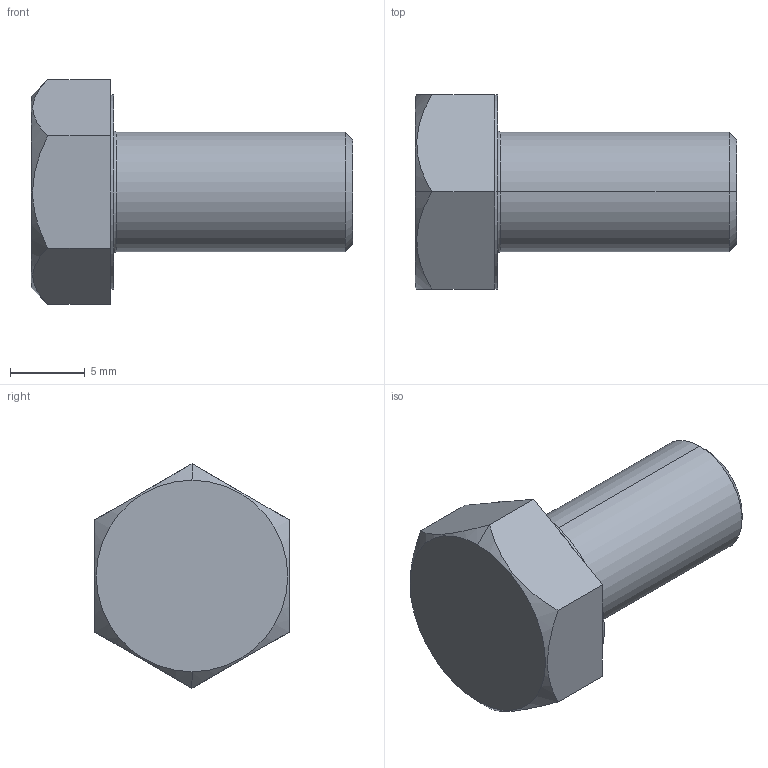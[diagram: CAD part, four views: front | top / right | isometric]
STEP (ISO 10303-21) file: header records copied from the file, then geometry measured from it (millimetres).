
FILE_DESCRIPTION (( 'STEP AP203' ), '1' );
FILE_NAME ('LGN-TD-M8x16.STEP', '2026-08-14T04:13:38', ( '' ), ( '' ), 'SwSTEP 2.0', 'SolidWorks 2020', '' );
FILE_SCHEMA (( 'CONFIG_CONTROL_DESIGN' ));
Length unit declared in the file: millimetre
Products named in the file (1): LGN-TD-M8x16
Bounding box: 21.5 x 13 x 15.01 mm (x, y, z)
Volume: 1598.1 mm3; surface area: 919.3 mm2
Topology: 1 solids, 1 shells, 25 faces, 54 edges, 32 vertices
Faces by surface type: plane 15, cone 4, cylinder 4, torus 2
Entity records: 809 total; most frequent: CARTESIAN_POINT 182, DIRECTION 122, ORIENTED_EDGE 108, EDGE_CURVE 54, AXIS2_PLACEMENT_3D 48, VERTEX_POINT 32, LINE 26, VECTOR 26
